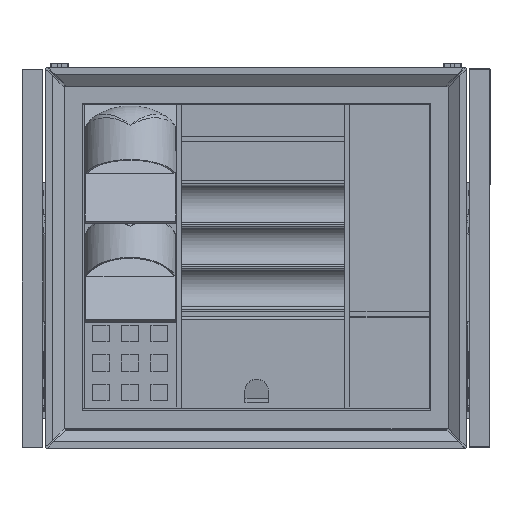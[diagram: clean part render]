
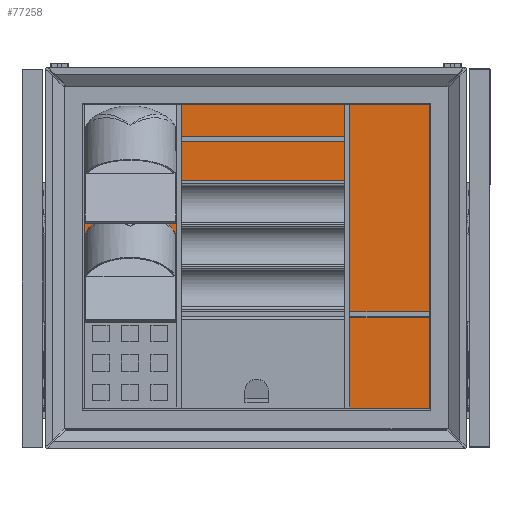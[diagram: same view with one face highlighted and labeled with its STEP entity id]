
A CAD part, top view. The second image highlights one B-rep face of the part: STEP entity #77258.
In plain terms, the highlighted planar face has unit normal (0, 0, 1).
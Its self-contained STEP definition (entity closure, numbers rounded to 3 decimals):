
#3274=LINE('',#116250,#11345);
#3277=LINE('',#116256,#11348);
#3279=LINE('',#116260,#11350);
#3280=LINE('',#116262,#11351);
#11345=VECTOR('',#91405,1000.);
#11348=VECTOR('',#91410,1000.);
#11350=VECTOR('',#91414,1000.);
#11351=VECTOR('',#91417,1000.);
#19105=PLANE('',#82526);
#25710=ORIENTED_EDGE('',*,*,#48472,.F.);
#25711=ORIENTED_EDGE('',*,*,#48475,.T.);
#25712=ORIENTED_EDGE('',*,*,#48477,.T.);
#25713=ORIENTED_EDGE('',*,*,#48478,.F.);
#48472=EDGE_CURVE('',#59951,#59952,#3274,.T.);
#48475=EDGE_CURVE('',#59951,#59953,#3277,.T.);
#48477=EDGE_CURVE('',#59953,#59954,#3279,.T.);
#48478=EDGE_CURVE('',#59952,#59954,#3280,.T.);
#59951=VERTEX_POINT('',#116249);
#59952=VERTEX_POINT('',#116251);
#59953=VERTEX_POINT('',#116255);
#59954=VERTEX_POINT('',#116259);
#67233=EDGE_LOOP('',(#25710,#25711,#25712,#25713));
#72260=FACE_BOUND('',#67233,.T.);
#77258=ADVANCED_FACE('',(#72260),#19105,.T.);
#82526=AXIS2_PLACEMENT_3D('',#116263,#91418,#91419);
#91405=DIRECTION('',(-1.,0.,0.));
#91410=DIRECTION('',(0.,1.,0.));
#91414=DIRECTION('',(-1.,0.,0.));
#91417=DIRECTION('',(0.,1.,0.));
#91418=DIRECTION('',(0.,0.,1.));
#91419=DIRECTION('',(1.,0.,0.));
#116249=CARTESIAN_POINT('',(208.,-183.5,8.4));
#116250=CARTESIAN_POINT('',(0.,-183.5,8.4));
#116251=CARTESIAN_POINT('',(-208.,-183.5,8.4));
#116255=CARTESIAN_POINT('',(208.,183.5,8.4));
#116256=CARTESIAN_POINT('',(208.,0.,8.4));
#116259=CARTESIAN_POINT('',(-208.,183.5,8.4));
#116260=CARTESIAN_POINT('',(0.,183.5,8.4));
#116262=CARTESIAN_POINT('',(-208.,0.,8.4));
#116263=CARTESIAN_POINT('',(0.,0.,8.4));
